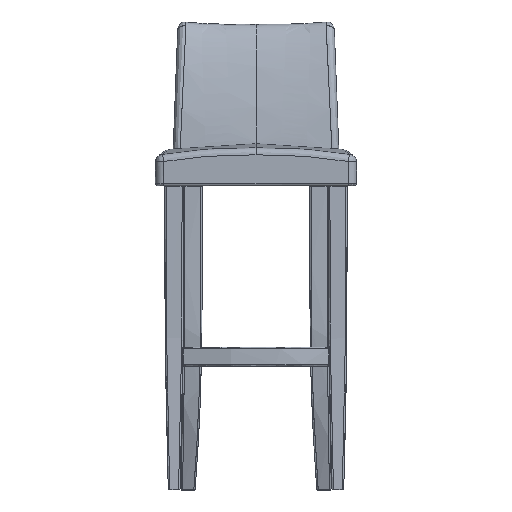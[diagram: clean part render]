
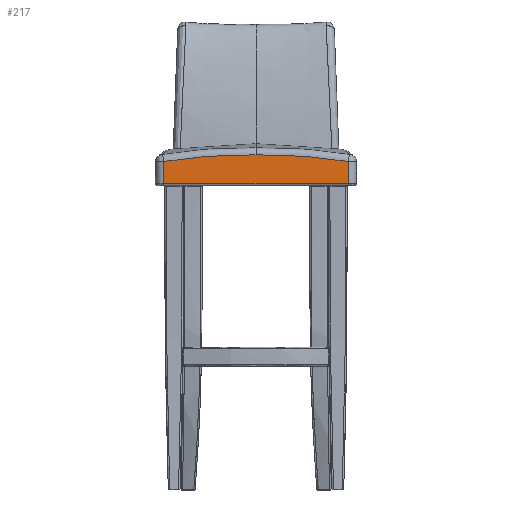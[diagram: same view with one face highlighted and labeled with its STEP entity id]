
A CAD part, front view. The second image highlights one B-rep face of the part: STEP entity #217.
In plain terms, the highlighted planar face has unit normal (0, -1, 0).
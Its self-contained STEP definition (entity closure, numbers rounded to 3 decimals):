
#217=ADVANCED_FACE('',(#485),#3615,.T.);
#485=FACE_OUTER_BOUND('',#753,.T.);
#753=EDGE_LOOP('',(#1601,#1602,#1603,#1604,#1605));
#1601=ORIENTED_EDGE('',*,*,#2420,.F.);
#1602=ORIENTED_EDGE('',*,*,#2423,.F.);
#1603=ORIENTED_EDGE('',*,*,#2424,.F.);
#1604=ORIENTED_EDGE('',*,*,#2408,.F.);
#1605=ORIENTED_EDGE('',*,*,#2422,.F.);
#2408=EDGE_CURVE('',#3471,#3478,#3145,.T.);
#2420=EDGE_CURVE('',#3488,#3477,#3156,.T.);
#2422=EDGE_CURVE('',#3477,#3471,#3157,.T.);
#2423=EDGE_CURVE('',#3489,#3488,#3158,.T.);
#2424=EDGE_CURVE('',#3478,#3489,#3159,.T.);
#3145=B_SPLINE_CURVE_WITH_KNOTS('',1,(#18281,#18282),.UNSPECIFIED.,.F.,
 .F.,(2,2),(0.,47.103),.UNSPECIFIED.);
#3156=B_SPLINE_CURVE_WITH_KNOTS('',1,(#18353,#18354),.UNSPECIFIED.,.F.,
 .F.,(2,2),(0.,47.103),.UNSPECIFIED.);
#3157=B_SPLINE_CURVE_WITH_KNOTS('',1,(#18360,#18361),.UNSPECIFIED.,.F.,
 .F.,(2,2),(0.,394.018),.UNSPECIFIED.);
#3158=B_SPLINE_CURVE_WITH_KNOTS('',3,(#18362,#18363,#18364,#18365,#18366,
#18367,#18368,#18369,#18370,#18371,#18372,#18373,#18374,#18375),
 .UNSPECIFIED.,.F.,.F.,(4,2,2,2,2,2,4),(0.,0.25,0.375,0.5,0.625,0.75,1.),
 .UNSPECIFIED.);
#3159=B_SPLINE_CURVE_WITH_KNOTS('',3,(#18376,#18377,#18378,#18379,#18380,
#18381,#18382,#18383,#18384,#18385,#18386,#18387,#18388,#18389),
 .UNSPECIFIED.,.F.,.F.,(4,2,2,2,2,2,4),(0.,0.25,0.375,0.5,0.625,0.75,1.),
 .UNSPECIFIED.);
#3471=VERTEX_POINT('',#18202);
#3477=VERTEX_POINT('',#18208);
#3478=VERTEX_POINT('',#18209);
#3488=VERTEX_POINT('',#18219);
#3489=VERTEX_POINT('',#18220);
#3615=PLANE('',#3903);
#3903=AXIS2_PLACEMENT_3D('',#17462,#3935,$);
#3935=DIRECTION('',(0.,-1.,0.));
#17462=CARTESIAN_POINT('',(236.412,-520.,648.861));
#18202=CARTESIAN_POINT('',(-197.009,-520.,655.));
#18208=CARTESIAN_POINT('',(197.009,-520.,655.));
#18209=CARTESIAN_POINT('',(-197.009,-520.,702.103));
#18219=CARTESIAN_POINT('',(197.009,-520.,702.103));
#18220=CARTESIAN_POINT('',(0.,-520.,716.379));
#18281=CARTESIAN_POINT('',(-197.009,-520.,655.));
#18282=CARTESIAN_POINT('',(-197.009,-520.,702.103));
#18353=CARTESIAN_POINT('',(197.009,-520.,702.103));
#18354=CARTESIAN_POINT('',(197.009,-520.,655.));
#18360=CARTESIAN_POINT('',(197.009,-520.,655.));
#18361=CARTESIAN_POINT('',(-197.009,-520.,655.));
#18362=CARTESIAN_POINT('',(0.,-520.,716.379));
#18363=CARTESIAN_POINT('',(16.488,-520.,716.379));
#18364=CARTESIAN_POINT('',(32.973,-520.,716.246));
#18365=CARTESIAN_POINT('',(57.695,-520.,715.63));
#18366=CARTESIAN_POINT('',(65.935,-520.,715.356));
#18367=CARTESIAN_POINT('',(82.412,-520.,714.636));
#18368=CARTESIAN_POINT('',(90.649,-520.,714.191));
#18369=CARTESIAN_POINT('',(107.097,-520.,713.107));
#18370=CARTESIAN_POINT('',(115.31,-520.,712.467));
#18371=CARTESIAN_POINT('',(131.713,-520.,710.978));
#18372=CARTESIAN_POINT('',(139.903,-520.,710.128));
#18373=CARTESIAN_POINT('',(164.438,-520.,707.25));
#18374=CARTESIAN_POINT('',(180.747,-520.,704.891));
#18375=CARTESIAN_POINT('',(197.009,-520.,702.103));
#18376=CARTESIAN_POINT('',(-197.009,-520.,702.103));
#18377=CARTESIAN_POINT('',(-180.747,-520.,704.891));
#18378=CARTESIAN_POINT('',(-164.438,-520.,707.25));
#18379=CARTESIAN_POINT('',(-139.903,-520.,710.128));
#18380=CARTESIAN_POINT('',(-131.713,-520.,710.978));
#18381=CARTESIAN_POINT('',(-115.31,-520.,712.467));
#18382=CARTESIAN_POINT('',(-107.097,-520.,713.107));
#18383=CARTESIAN_POINT('',(-90.649,-520.,714.191));
#18384=CARTESIAN_POINT('',(-82.412,-520.,714.636));
#18385=CARTESIAN_POINT('',(-65.935,-520.,715.356));
#18386=CARTESIAN_POINT('',(-57.695,-520.,715.63));
#18387=CARTESIAN_POINT('',(-32.973,-520.,716.246));
#18388=CARTESIAN_POINT('',(-16.488,-520.,716.379));
#18389=CARTESIAN_POINT('',(0.,-520.,716.379));
